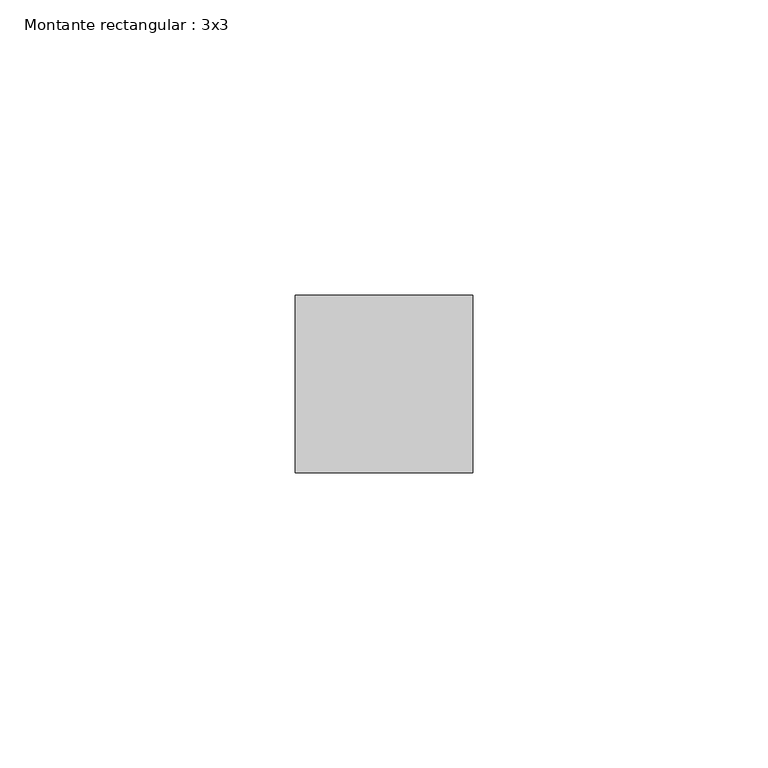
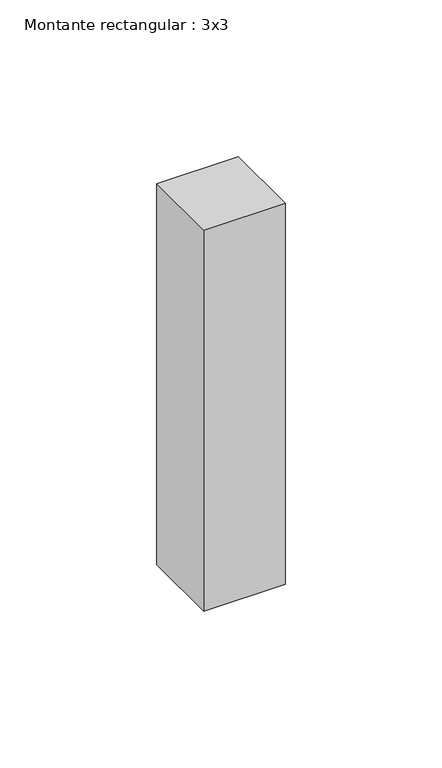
"""IFC4 building model written with IfcOpenShell, lengths in millimetres: member geometry, Montante rectangular : 3x3."""

from ifc_helpers import new_model, si_unit, frame, origin, place, context, project, spatial, polyline, outline, extrude, source, transform, mapped, element, save


def montante_rectangular_3x3_8474d0b0(model_context):
    return source(origin(), model_context, "Body", "SweptSolid", [
        extrude(outline(polyline([(15.0, 15.0), (15.0, -15.0), (-15.0, -15.0), (-15.0, 15.0), (15.0, 15.0)])), frame((0.0, 0.0, -148.5064249), z_axis=(0.0, 0.0, 1.0), x_axis=(1.0, 0.0, 0.0)), (0.0, 0.0, 1.0), 148.5064249),
    ])


if __name__ == "__main__":
    model = new_model("IFC4")
    model_context = context("Model", 3, world=origin())
    ifc_project = project(units=[si_unit("LENGTHUNIT", "METRE", prefix="MILLI")], contexts=[model_context])
    site = spatial("IfcSite", under=ifc_project)
    building = spatial("IfcBuilding", under=site)
    placement = place(None, origin())
    montante_rectangular_3x3_shape = montante_rectangular_3x3_8474d0b0(model_context)
    element("IfcMember", 1, ObjectType="Montante rectangular : 3x3", at=placement, inside=building, context=model_context, shape_type="MappedRepresentation", body=[
        mapped(montante_rectangular_3x3_shape, transform((0.0, 0.0, 0.0), x_axis=(1.0, 0.0, 0.0), y_axis=(0.0, 1.0, 0.0), z_axis=(0.0, 0.0, 1.0))),
    ])
    save(model, "model.ifc")
